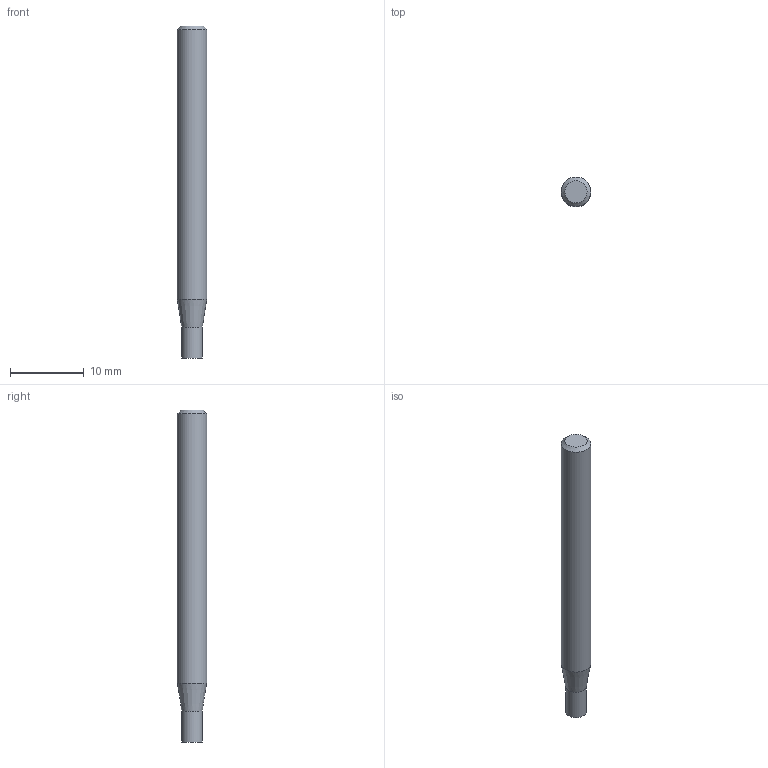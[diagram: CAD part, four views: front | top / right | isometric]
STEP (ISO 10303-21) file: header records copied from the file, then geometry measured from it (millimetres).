
FILE_DESCRIPTION((''),'2;1');
FILE_NAME('C:\Users\nsx150\AppData\Local\Temp\Mastercam 2021\98T1Q6BTT1\TEMP.step','2021-10-21T14:48:13',(''),(''),'STEP Write','Mastercam 2021 ... CNC Software, Inc.','');
FILE_SCHEMA(('AUTOMOTIVE_DESIGN'));
Length unit declared in the file: millimetre
Products named in the file (1): None
Bounding box: 4 x 4 x 45 mm (x, y, z)
Volume: 524.3 mm3; surface area: 570 mm2
Topology: 2 solids, 2 shells, 8 faces, 10 edges, 6 vertices
Faces by surface type: plane 4, cylinder 2, cone 2
Full cylindrical faces by diameter (mm): 2.8 x1, 4 x1
Entity records: 190 total; most frequent: DIRECTION 32, CARTESIAN_POINT 22, AXIS2_PLACEMENT_3D 16, ORIENTED_EDGE 12, EDGE_LOOP 12, STYLED_ITEM 11, ADVANCED_FACE 8, VERTEX_POINT 6
